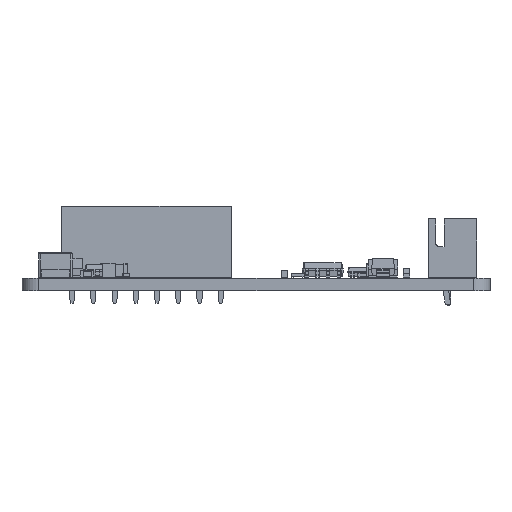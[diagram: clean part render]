
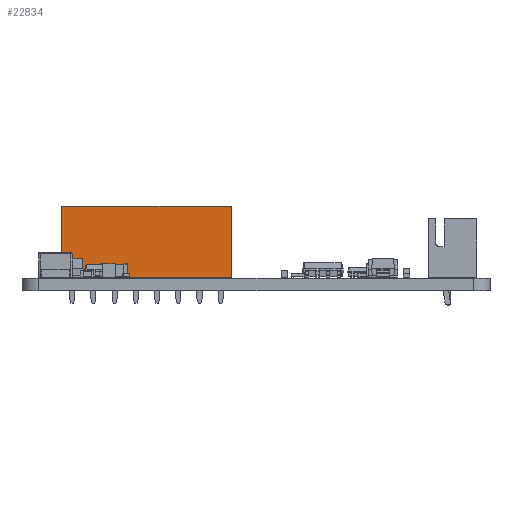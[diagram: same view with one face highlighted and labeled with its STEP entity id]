
A CAD part, left-side view. The second image highlights one B-rep face of the part: STEP entity #22834.
In plain terms, the highlighted planar face has unit normal (-1, 0, 0).
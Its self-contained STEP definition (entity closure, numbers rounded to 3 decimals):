
#21011 = VERTEX_POINT('',#21012);
#21012 = CARTESIAN_POINT('',(-3.81,-19.05,0.));
#21020 = EDGE_CURVE('',#21011,#21021,#21023,.T.);
#21021 = VERTEX_POINT('',#21022);
#21022 = CARTESIAN_POINT('',(-3.81,-19.05,8.5));
#21023 = LINE('',#21024,#21025);
#21024 = CARTESIAN_POINT('',(-3.81,-19.05,0.));
#21025 = VECTOR('',#21026,1.);
#21026 = DIRECTION('',(0.,0.,1.));
#21083 = VERTEX_POINT('',#21084);
#21084 = CARTESIAN_POINT('',(-3.81,1.27,8.5));
#21090 = EDGE_CURVE('',#21091,#21083,#21093,.T.);
#21091 = VERTEX_POINT('',#21092);
#21092 = CARTESIAN_POINT('',(-3.81,1.27,0.));
#21093 = LINE('',#21094,#21095);
#21094 = CARTESIAN_POINT('',(-3.81,1.27,0.));
#21095 = VECTOR('',#21096,1.);
#21096 = DIRECTION('',(0.,0.,1.));
#21155 = EDGE_CURVE('',#21083,#21021,#21156,.T.);
#21156 = LINE('',#21157,#21158);
#21157 = CARTESIAN_POINT('',(-3.81,1.27,8.5));
#21158 = VECTOR('',#21159,1.);
#21159 = DIRECTION('',(0.,-1.,0.));
#21722 = EDGE_CURVE('',#21091,#21011,#21723,.T.);
#21723 = LINE('',#21724,#21725);
#21724 = CARTESIAN_POINT('',(-3.81,1.27,0.));
#21725 = VECTOR('',#21726,1.);
#21726 = DIRECTION('',(0.,-1.,0.));
#22834 = ADVANCED_FACE('',(#22835),#22841,.F.);
#22835 = FACE_BOUND('',#22836,.F.);
#22836 = EDGE_LOOP('',(#22837,#22838,#22839,#22840));
#22837 = ORIENTED_EDGE('',*,*,#21090,.T.);
#22838 = ORIENTED_EDGE('',*,*,#21155,.T.);
#22839 = ORIENTED_EDGE('',*,*,#21020,.F.);
#22840 = ORIENTED_EDGE('',*,*,#21722,.F.);
#22841 = PLANE('',#22842);
#22842 = AXIS2_PLACEMENT_3D('',#22843,#22844,#22845);
#22843 = CARTESIAN_POINT('',(-3.81,1.27,0.));
#22844 = DIRECTION('',(1.,0.,0.));
#22845 = DIRECTION('',(0.,-1.,0.));
